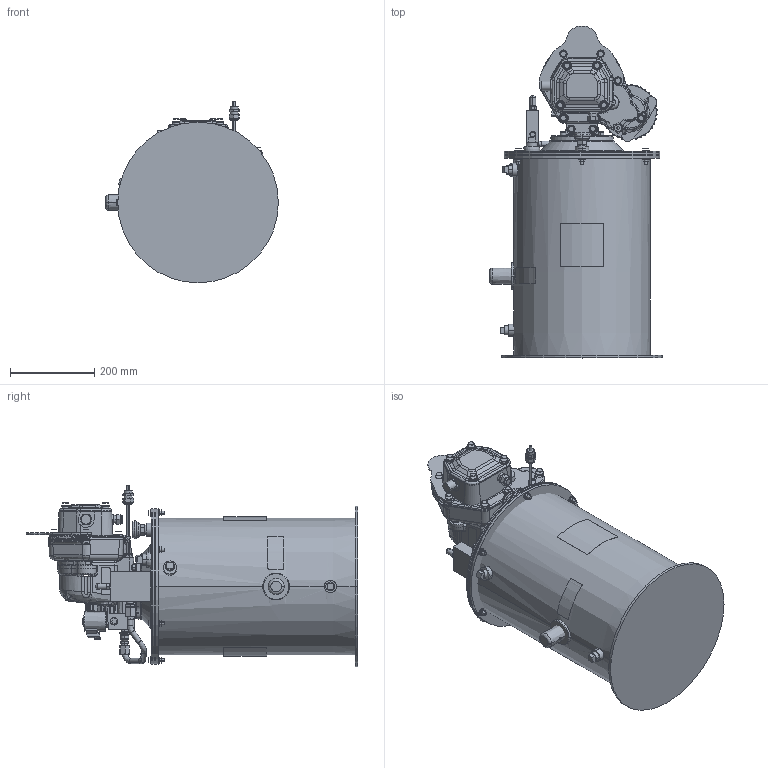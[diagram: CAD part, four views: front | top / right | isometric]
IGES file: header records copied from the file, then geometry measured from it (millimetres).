
Start section:  PTC IGES file: 77x202-en-n.igs
Global section: file name: 77x202-en-n.igs; native system: Creo Parametric by PTC Inc.; preprocessor: 2023424; author: qtmwp1; organization: Unknown; date: 20240523.124028; units: inch
Bounding box: 409.7 x 787.15 x 430.78 mm (x, y, z)
Surface area: 1859533.1 mm2 (no closed solid volume)
Topology: 0 solids, 0 shells, 1678 faces, 8580 edges, 8577 vertices
Faces by surface type: revolution 856, bspline 822
